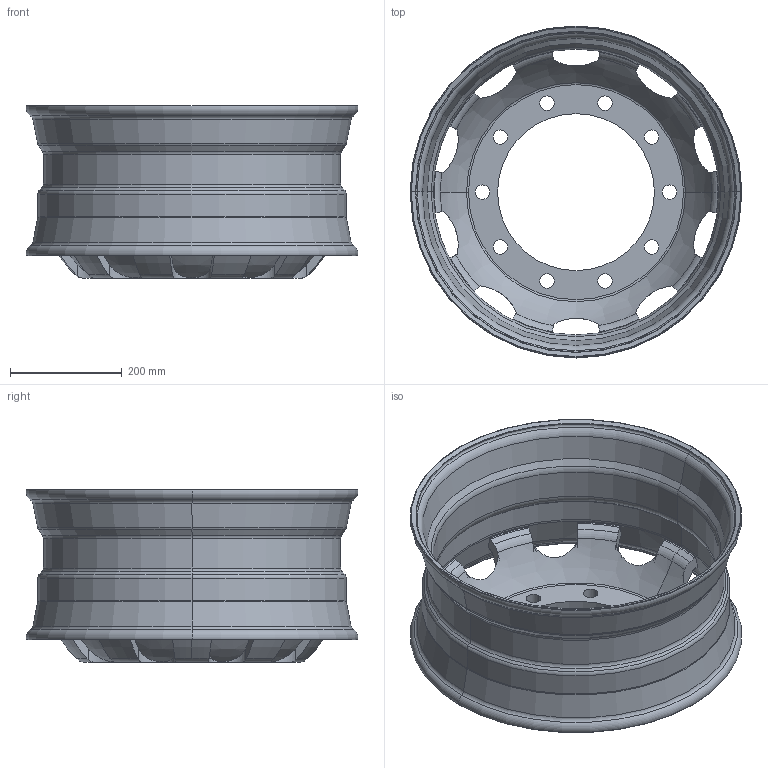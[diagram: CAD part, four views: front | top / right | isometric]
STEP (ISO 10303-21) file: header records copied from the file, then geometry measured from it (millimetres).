
FILE_DESCRIPTION (( 'STEP AP214' ), '1' );
FILE_NAME ('Roda de caminhão de Aluminio.STEP', '2022-07-17T14:31:25', ( '' ), ( '' ), 'SwSTEP 2.0', 'SolidWorks 2021', '' );
FILE_SCHEMA (( 'AUTOMOTIVE_DESIGN' ));
Length unit declared in the file: millimetre
Products named in the file (1): Roda de caminhão de Aluminio
Bounding box: 594.1 x 594.1 x 309.69 mm (x, y, z)
Volume: 7624404 mm3; surface area: 1410259.8 mm2
Topology: 1 solids, 1 shells, 233 faces, 629 edges, 386 vertices
Faces by surface type: torus 114, cylinder 56, plane 32, cone 31
Entity records: 10037 total; most frequent: CARTESIAN_POINT 4329, ORIENTED_EDGE 1258, DIRECTION 1151, EDGE_CURVE 629, AXIS2_PLACEMENT_3D 526, VERTEX_POINT 386, CIRCLE 292, EDGE_LOOP 263
